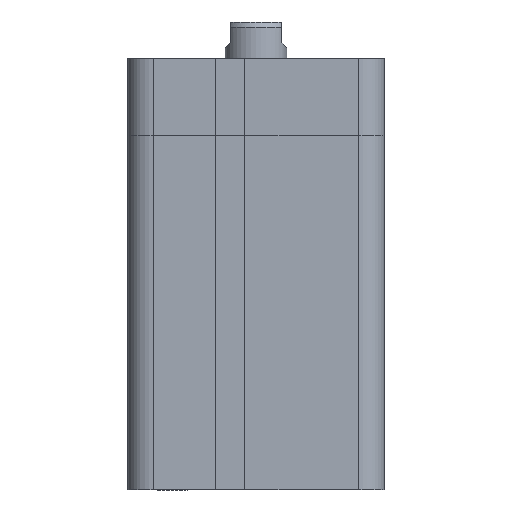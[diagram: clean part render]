
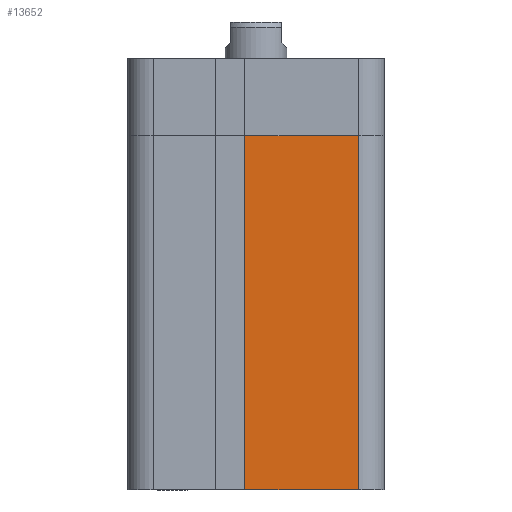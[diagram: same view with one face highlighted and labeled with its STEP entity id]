
A CAD part, left-side view. The second image highlights one B-rep face of the part: STEP entity #13652.
In plain terms, the highlighted planar face has unit normal (-1, 0, 0).
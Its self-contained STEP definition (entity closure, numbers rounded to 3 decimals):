
#264 = CARTESIAN_POINT ( 'NONE',  ( 0., -44.976, -10. ) ) ;
#1548 = VERTEX_POINT ( 'NONE', #17021 ) ;
#2832 = EDGE_LOOP ( 'NONE', ( #11908, #17822, #10169, #11382 ) ) ;
#3112 = LINE ( 'NONE', #4427, #20518 ) ;
#4427 = CARTESIAN_POINT ( 'NONE',  ( 0., -22.776, 59. ) ) ;
#5571 = VECTOR ( 'NONE', #7858, 1000. ) ;
#5662 = VERTEX_POINT ( 'NONE', #19725 ) ;
#6273 = DIRECTION ( 'NONE',  ( 0., -1., 0. ) ) ;
#6656 = EDGE_CURVE ( 'NONE', #7659, #1548, #16906, .T. ) ;
#7625 = CARTESIAN_POINT ( 'NONE',  ( 0., -44.976, -10. ) ) ;
#7659 = VERTEX_POINT ( 'NONE', #8787 ) ;
#7675 = VERTEX_POINT ( 'NONE', #16813 ) ;
#7858 = DIRECTION ( 'NONE',  ( 0., 0., 1. ) ) ;
#8787 = CARTESIAN_POINT ( 'NONE',  ( 0., -22.776, -10. ) ) ;
#9246 = VECTOR ( 'NONE', #9901, 1000. ) ;
#9304 = EDGE_CURVE ( 'NONE', #7675, #5662, #11023, .T. ) ;
#9901 = DIRECTION ( 'NONE',  ( 0., 0., -1. ) ) ;
#10112 = EDGE_CURVE ( 'NONE', #1548, #7675, #3112, .T. ) ;
#10169 = ORIENTED_EDGE ( 'NONE', *, *, #6656, .F. ) ;
#11023 = LINE ( 'NONE', #264, #9246 ) ;
#11382 = ORIENTED_EDGE ( 'NONE', *, *, #15152, .T. ) ;
#11908 = ORIENTED_EDGE ( 'NONE', *, *, #9304, .F. ) ;
#12299 = DIRECTION ( 'NONE',  ( 1., 0., 0. ) ) ;
#12513 = PLANE ( 'NONE',  #20543 ) ;
#13652 = ADVANCED_FACE ( 'NONE', ( #18687 ), #12513, .F. ) ;
#14233 = DIRECTION ( 'NONE',  ( 0., -1., 0. ) ) ;
#15152 = EDGE_CURVE ( 'NONE', #7659, #5662, #18858, .T. ) ;
#15907 = CARTESIAN_POINT ( 'NONE',  ( 0., -44.976, -10. ) ) ;
#16813 = CARTESIAN_POINT ( 'NONE',  ( 0., -44.976, 59. ) ) ;
#16906 = LINE ( 'NONE', #17327, #5571 ) ;
#17021 = CARTESIAN_POINT ( 'NONE',  ( 0., -22.776, 59. ) ) ;
#17327 = CARTESIAN_POINT ( 'NONE',  ( 0., -22.776, -10. ) ) ;
#17822 = ORIENTED_EDGE ( 'NONE', *, *, #10112, .F. ) ;
#18687 = FACE_OUTER_BOUND ( 'NONE', #2832, .T. ) ;
#18858 = LINE ( 'NONE', #15907, #19363 ) ;
#19363 = VECTOR ( 'NONE', #6273, 1000. ) ;
#19725 = CARTESIAN_POINT ( 'NONE',  ( 0., -44.976, -10. ) ) ;
#20518 = VECTOR ( 'NONE', #14233, 1000. ) ;
#20540 = DIRECTION ( 'NONE',  ( 0., -1., 0. ) ) ;
#20543 = AXIS2_PLACEMENT_3D ( 'NONE', #7625, #12299, #20540 ) ;
